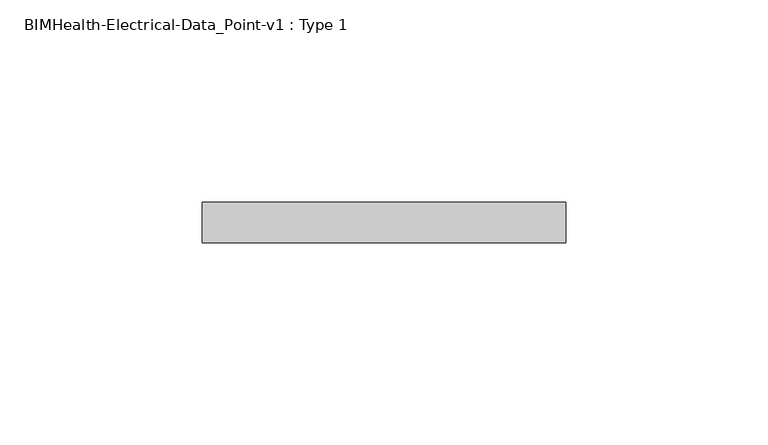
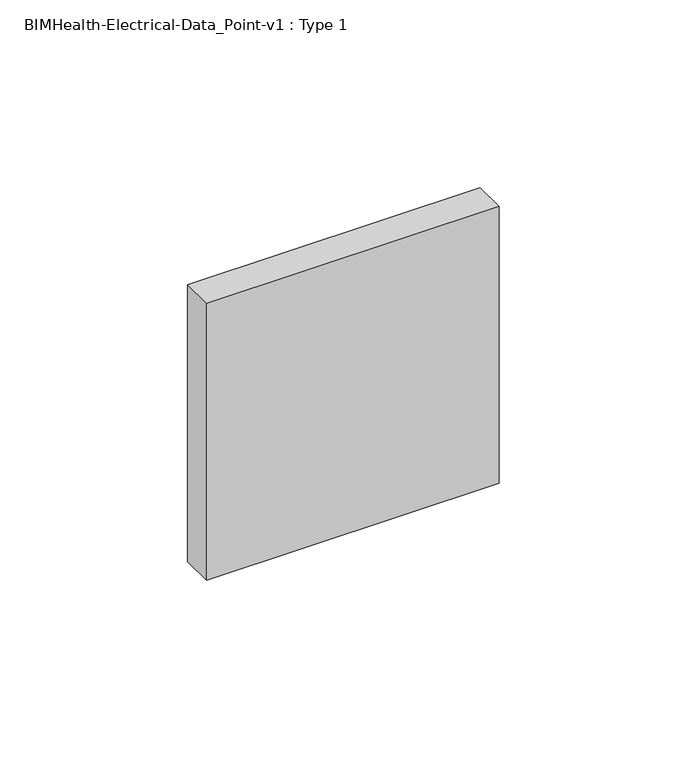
"""IFC4 building model written with IfcOpenShell, lengths in millimetres: proxy geometry, BIMHealth-Electrical-Data_Point-v1 : Type 1."""

from ifc_helpers import new_model, si_unit, frame, origin, place, context, project, spatial, polyline, outline, extrude, source, transform, mapped, element, save


def bimhealth_electrical_data_point_v1_type_1_511d3d56(model_context):
    return source(origin(), model_context, "Body", "SweptSolid", [
        extrude(outline(polyline([(125.0, 75.0), (125.0, 85.0), (215.0, 85.0), (215.0, 75.0), (125.0, 75.0)])), frame((0.0, 0.0, 750.0), z_axis=(0.0, 0.0, 1.0), x_axis=(1.0, 0.0, 0.0)), (0.0, 0.0, 1.0), 90.0),
    ])


if __name__ == "__main__":
    model = new_model("IFC4")
    model_context = context("Model", 3, world=origin())
    ifc_project = project(units=[si_unit("LENGTHUNIT", "METRE", prefix="MILLI")], contexts=[model_context])
    site = spatial("IfcSite", under=ifc_project)
    building = spatial("IfcBuilding", under=site)
    placement = place(None, origin())
    bimhealth_electrical_data_point_v1_type_1_shape = bimhealth_electrical_data_point_v1_type_1_511d3d56(model_context)
    element("IfcBuildingElementProxy", 1, Name="BIMHealth-Electrical-Data_Point-v1 : Type 1", ObjectType="BIMHealth-Electrical-Data_Point-v1 : Type 1", at=placement, inside=building, context=model_context, shape_type="MappedRepresentation", body=[
        mapped(bimhealth_electrical_data_point_v1_type_1_shape, transform((0.0, 0.0, 0.0), x_axis=(1.0, 0.0, 0.0), y_axis=(0.0, 1.0, 0.0), z_axis=(0.0, 0.0, 1.0))),
    ])
    save(model, "model.ifc")
